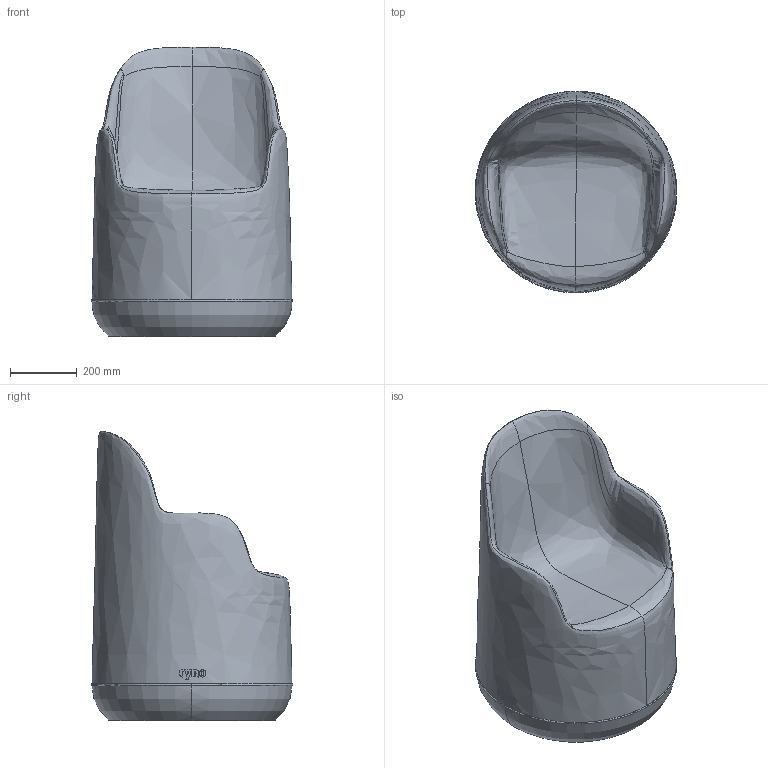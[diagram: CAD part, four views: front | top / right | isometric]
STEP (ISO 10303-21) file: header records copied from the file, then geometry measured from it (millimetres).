
FILE_DESCRIPTION (( 'STEP AP203' ), '1' );
FILE_NAME ('KINO ARMCHAIR - SIMPLE.STEP', '2026-10-01T06:40:11', ( '' ), ( '' ), 'SwSTEP 2.0', 'SolidWorks 2026', '' );
FILE_SCHEMA (( 'CONFIG_CONTROL_DESIGN' ));
Length unit declared in the file: millimetre
Products named in the file (1): KINO ARMCHAIR - SIMPLE
Bounding box: 605 x 604.95 x 868.22 mm (x, y, z)
Volume: 137513291.4 mm3; surface area: 1892722.9 mm2
Topology: 1 solids, 1 shells, 57 faces, 140 edges, 90 vertices
Faces by surface type: bspline 39, plane 10, torus 6, cylinder 2
Entity records: 7310 total; most frequent: CARTESIAN_POINT 6176, ORIENTED_EDGE 280, EDGE_CURVE 140, DIRECTION 103, B_SPLINE_CURVE_WITH_KNOTS 97, VERTEX_POINT 90, EDGE_LOOP 62, FACE_OUTER_BOUND 57
